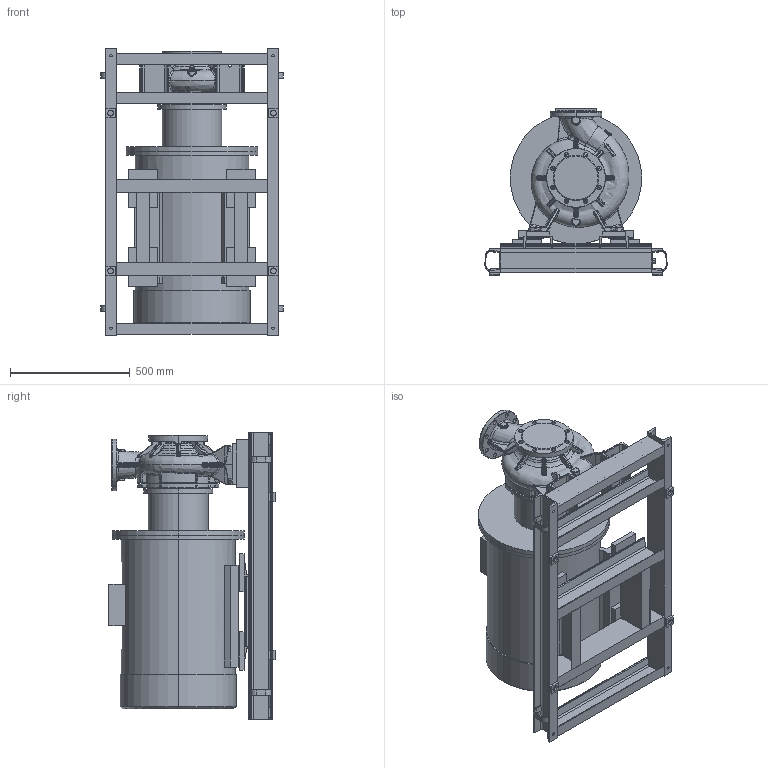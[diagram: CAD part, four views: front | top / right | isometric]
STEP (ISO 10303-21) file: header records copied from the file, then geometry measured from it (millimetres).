
FILE_DESCRIPTION (( 'STEP AP203' ), '1' );
FILE_NAME ('KRM125-100-250-2-55.STEP', '2026-09-09T12:57:25', ( '' ), ( '' ), 'SwSTEP 2.0', 'SolidWorks 2016', '' );
FILE_SCHEMA (( 'CONFIG_CONTROL_DESIGN' ));
Products named in the file (1): KRM125-100-250-2-55
Bounding box: 761.08 x 695 x 1200 mm (x, y, z)
Volume: 180771731.1 mm3; surface area: 6455465.1 mm2
Topology: 38 solids, 38 shells, 1567 faces, 3839 edges, 2338 vertices
Faces by surface type: bspline 493, plane 448, cylinder 395, torus 123, cone 77, sphere 31
Entity records: 97210 total; most frequent: CARTESIAN_POINT 63882, ORIENTED_EDGE 7612, DIRECTION 6059, EDGE_CURVE 3806, AXIS2_PLACEMENT_3D 2378, VERTEX_POINT 2338, EDGE_LOOP 1684, FACE_OUTER_BOUND 1567
